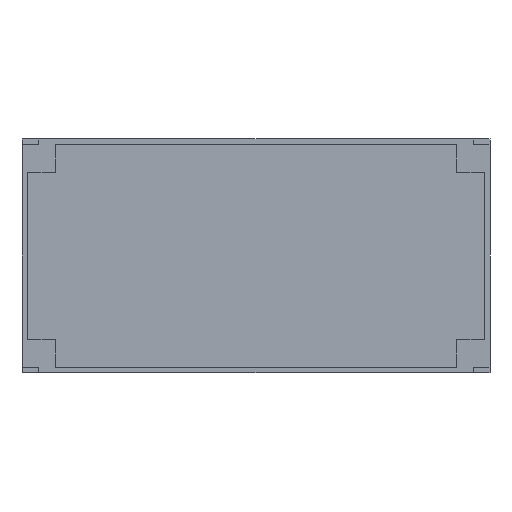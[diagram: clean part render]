
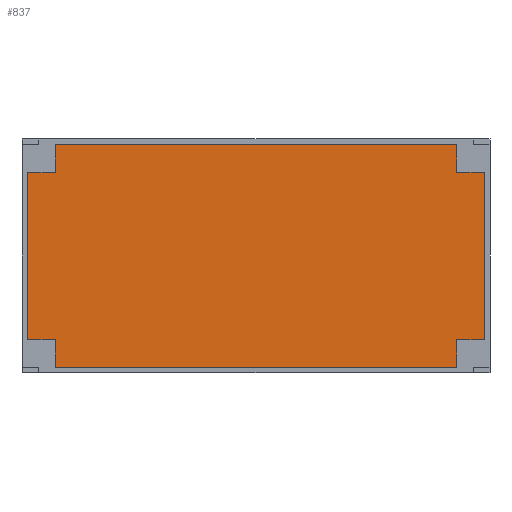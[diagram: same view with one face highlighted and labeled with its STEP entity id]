
A CAD part, front view. The second image highlights one B-rep face of the part: STEP entity #837.
In plain terms, the highlighted planar face has unit normal (0, -1, 0).
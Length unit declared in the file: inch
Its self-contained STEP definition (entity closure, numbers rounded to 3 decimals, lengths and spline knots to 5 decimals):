
#183=FACE_OUTER_BOUND('',#219,.T.);
#219=EDGE_LOOP('',(#624,#625,#626,#627));
#252=LINE('',#1171,#348);
#256=LINE('',#1179,#352);
#259=LINE('',#1185,#355);
#262=LINE('',#1190,#358);
#348=VECTOR('',#990,0.3937);
#352=VECTOR('',#996,0.3937);
#355=VECTOR('',#1001,0.3937);
#358=VECTOR('',#1006,0.3937);
#444=VERTEX_POINT('',#1169);
#445=VERTEX_POINT('',#1170);
#448=VERTEX_POINT('',#1178);
#450=VERTEX_POINT('',#1184);
#508=EDGE_CURVE('',#444,#445,#252,.T.);
#512=EDGE_CURVE('',#448,#444,#256,.T.);
#515=EDGE_CURVE('',#450,#448,#259,.T.);
#518=EDGE_CURVE('',#445,#450,#262,.T.);
#624=ORIENTED_EDGE('',*,*,#518,.F.);
#625=ORIENTED_EDGE('',*,*,#508,.F.);
#626=ORIENTED_EDGE('',*,*,#512,.F.);
#627=ORIENTED_EDGE('',*,*,#515,.F.);
#801=PLANE('',#948);
#837=ADVANCED_FACE('',(#183),#801,.F.);
#948=AXIS2_PLACEMENT_3D('',#1193,#1010,#1011);
#990=DIRECTION('',(1.,0.,0.));
#996=DIRECTION('',(0.,0.,1.));
#1001=DIRECTION('',(-1.,0.,0.));
#1006=DIRECTION('',(0.,0.,-1.));
#1010=DIRECTION('center_axis',(0.,1.,0.));
#1011=DIRECTION('ref_axis',(0.,0.,1.));
#1169=CARTESIAN_POINT('',(0.,0.,0.));
#1170=CARTESIAN_POINT('',(84.,0.,0.));
#1171=CARTESIAN_POINT('',(0.,0.,0.));
#1178=CARTESIAN_POINT('',(0.,0.,-42.));
#1179=CARTESIAN_POINT('',(0.,0.,-42.));
#1184=CARTESIAN_POINT('',(84.,0.,-42.));
#1185=CARTESIAN_POINT('',(84.,0.,-42.));
#1190=CARTESIAN_POINT('',(84.,0.,0.));
#1193=CARTESIAN_POINT('Origin',(42.,0.,-21.));
